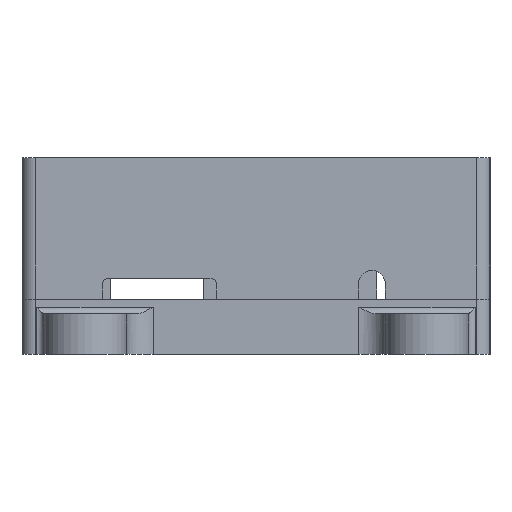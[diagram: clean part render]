
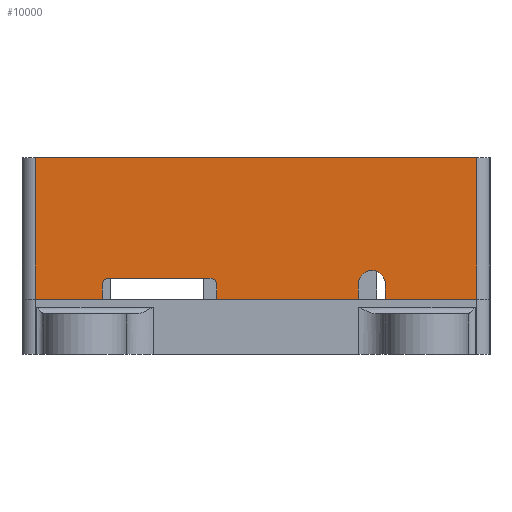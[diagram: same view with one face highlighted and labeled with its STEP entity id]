
A CAD part, left-side view. The second image highlights one B-rep face of the part: STEP entity #10000.
In plain terms, the highlighted planar face has unit normal (-1, 0, 0).
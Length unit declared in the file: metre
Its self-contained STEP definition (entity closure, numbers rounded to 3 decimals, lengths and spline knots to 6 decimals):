
#409=PLANE('',#10735);
#1367=LINE('',#15805,#2550);
#1370=LINE('',#15818,#2553);
#1465=LINE('',#16065,#2648);
#1470=LINE('',#16078,#2653);
#1471=LINE('',#16080,#2654);
#1478=LINE('',#16099,#2661);
#1481=LINE('',#16105,#2664);
#1559=LINE('',#16323,#2742);
#1560=LINE('',#16324,#2743);
#1561=LINE('',#16325,#2744);
#1562=LINE('',#16326,#2745);
#2550=VECTOR('',#12817,1.);
#2553=VECTOR('',#12828,1.);
#2648=VECTOR('',#13043,1.);
#2653=VECTOR('',#13056,1.);
#2654=VECTOR('',#13059,1.);
#2661=VECTOR('',#13074,1.);
#2664=VECTOR('',#13079,1.);
#2742=VECTOR('',#13265,1.);
#2743=VECTOR('',#13266,1.);
#2744=VECTOR('',#13267,1.);
#2745=VECTOR('',#13268,1.);
#5117=ORIENTED_EDGE('',*,*,#7003,.F.);
#5118=ORIENTED_EDGE('',*,*,#6762,.T.);
#5119=ORIENTED_EDGE('',*,*,#7004,.T.);
#5120=ORIENTED_EDGE('',*,*,#6889,.T.);
#5121=ORIENTED_EDGE('',*,*,#6878,.F.);
#5122=ORIENTED_EDGE('',*,*,#6881,.T.);
#5123=ORIENTED_EDGE('',*,*,#6885,.F.);
#5124=ORIENTED_EDGE('',*,*,#6888,.F.);
#5125=ORIENTED_EDGE('',*,*,#7005,.T.);
#5126=ORIENTED_EDGE('',*,*,#6901,.T.);
#5127=ORIENTED_EDGE('',*,*,#6895,.T.);
#5128=ORIENTED_EDGE('',*,*,#6898,.T.);
#5129=ORIENTED_EDGE('',*,*,#7006,.T.);
#5130=ORIENTED_EDGE('',*,*,#6756,.F.);
#6756=EDGE_CURVE('',#7819,#7821,#1367,.T.);
#6762=EDGE_CURVE('',#7824,#7826,#1370,.T.);
#6878=EDGE_CURVE('',#7915,#7916,#8206,.T.);
#6881=EDGE_CURVE('',#7915,#7918,#1465,.T.);
#6885=EDGE_CURVE('',#7920,#7918,#8208,.T.);
#6888=EDGE_CURVE('',#7922,#7920,#1470,.T.);
#6889=EDGE_CURVE('',#7923,#7916,#1471,.T.);
#6895=EDGE_CURVE('',#7925,#7928,#8210,.T.);
#6898=EDGE_CURVE('',#7928,#7930,#1478,.T.);
#6901=EDGE_CURVE('',#7931,#7925,#1481,.T.);
#7003=EDGE_CURVE('',#7824,#7819,#1559,.T.);
#7004=EDGE_CURVE('',#7826,#7923,#1560,.T.);
#7005=EDGE_CURVE('',#7922,#7931,#1561,.T.);
#7006=EDGE_CURVE('',#7930,#7821,#1562,.T.);
#7819=VERTEX_POINT('',#15803);
#7821=VERTEX_POINT('',#15806);
#7824=VERTEX_POINT('',#15813);
#7826=VERTEX_POINT('',#15817);
#7915=VERTEX_POINT('',#16057);
#7916=VERTEX_POINT('',#16059);
#7918=VERTEX_POINT('',#16064);
#7920=VERTEX_POINT('',#16071);
#7922=VERTEX_POINT('',#16077);
#7923=VERTEX_POINT('',#16081);
#7925=VERTEX_POINT('',#16087);
#7928=VERTEX_POINT('',#16092);
#7930=VERTEX_POINT('',#16098);
#7931=VERTEX_POINT('',#16102);
#8206=CIRCLE('',#10670,0.001);
#8208=CIRCLE('',#10674,0.001);
#8210=CIRCLE('',#10679,0.002);
#8762=EDGE_LOOP('',(#5117,#5118,#5119,#5120,#5121,#5122,#5123,#5124,#5125,
#5126,#5127,#5128,#5129,#5130));
#9339=FACE_BOUND('',#8762,.T.);
#10000=ADVANCED_FACE('',(#9339),#409,.F.);
#10670=AXIS2_PLACEMENT_3D('',#16058,#13037,#13038);
#10674=AXIS2_PLACEMENT_3D('',#16072,#13050,#13051);
#10679=AXIS2_PLACEMENT_3D('',#16093,#13068,#13069);
#10735=AXIS2_PLACEMENT_3D('',#16322,#13263,#13264);
#12817=DIRECTION('',(0.,0.,-1.));
#12828=DIRECTION('',(0.,0.,-1.));
#13037=DIRECTION('',(-1.,0.,0.));
#13038=DIRECTION('',(0.,-1.,0.));
#13043=DIRECTION('',(0.,-1.,0.));
#13050=DIRECTION('',(-1.,0.,0.));
#13051=DIRECTION('',(0.,-1.,0.));
#13056=DIRECTION('',(0.,0.,1.));
#13059=DIRECTION('',(0.,0.,1.));
#13068=DIRECTION('',(1.,0.,0.));
#13069=DIRECTION('',(0.,1.,0.));
#13074=DIRECTION('',(0.,0.,-1.));
#13079=DIRECTION('',(0.,0.,1.));
#13263=DIRECTION('',(1.,0.,0.));
#13264=DIRECTION('',(0.,1.,0.));
#13265=DIRECTION('',(0.,-1.,0.));
#13266=DIRECTION('',(0.,-1.,0.));
#13267=DIRECTION('',(0.,-1.,0.));
#13268=DIRECTION('',(0.,-1.,0.));
#15803=CARTESIAN_POINT('',(-0.0023,-0.0003,0.021));
#15805=CARTESIAN_POINT('',(-0.0023,-0.0003,0.019002));
#15806=CARTESIAN_POINT('',(-0.0023,-0.0003,0.));
#15813=CARTESIAN_POINT('',(-0.0023,0.0652,0.021));
#15817=CARTESIAN_POINT('',(-0.0023,0.0652,0.));
#15818=CARTESIAN_POINT('',(-0.0023,0.0652,0.));
#16057=CARTESIAN_POINT('',(-0.0023,0.0543,0.0031));
#16058=CARTESIAN_POINT('',(-0.0023,0.0543,0.0021));
#16059=CARTESIAN_POINT('',(-0.0023,0.0553,0.0021));
#16064=CARTESIAN_POINT('',(-0.0023,0.0393,0.0031));
#16065=CARTESIAN_POINT('',(-0.0023,0.0468,0.0031));
#16071=CARTESIAN_POINT('',(-0.0023,0.0383,0.0021));
#16072=CARTESIAN_POINT('',(-0.0023,0.0393,0.0021));
#16077=CARTESIAN_POINT('',(-0.0023,0.0383,0.));
#16078=CARTESIAN_POINT('',(-0.0023,0.0383,0.00105));
#16080=CARTESIAN_POINT('',(-0.0023,0.0553,0.00105));
#16081=CARTESIAN_POINT('',(-0.0023,0.0553,0.));
#16087=CARTESIAN_POINT('',(-0.0023,0.01725,0.00225));
#16092=CARTESIAN_POINT('',(-0.0023,0.01325,0.00225));
#16093=CARTESIAN_POINT('',(-0.0023,0.01525,0.00225));
#16098=CARTESIAN_POINT('',(-0.0023,0.01325,0.));
#16099=CARTESIAN_POINT('',(-0.0023,0.01325,0.019002));
#16102=CARTESIAN_POINT('',(-0.0023,0.01725,0.));
#16105=CARTESIAN_POINT('',(-0.0023,0.01725,0.019002));
#16322=CARTESIAN_POINT('',(-0.0023,-0.0003,0.));
#16323=CARTESIAN_POINT('',(-0.0023,0.03245,0.021));
#16324=CARTESIAN_POINT('',(-0.0023,0.03245,0.));
#16325=CARTESIAN_POINT('',(-0.0023,0.03245,0.));
#16326=CARTESIAN_POINT('',(-0.0023,0.03245,0.));
